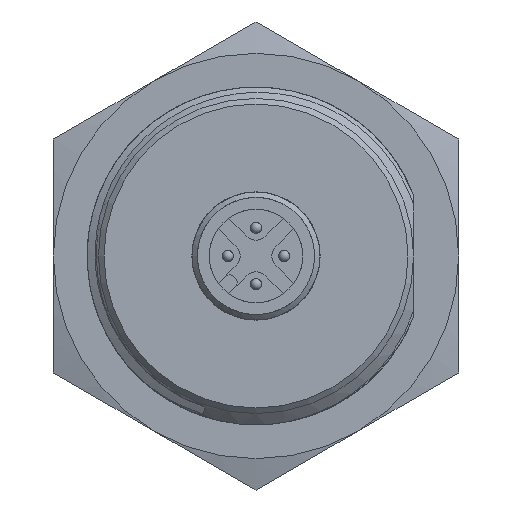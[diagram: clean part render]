
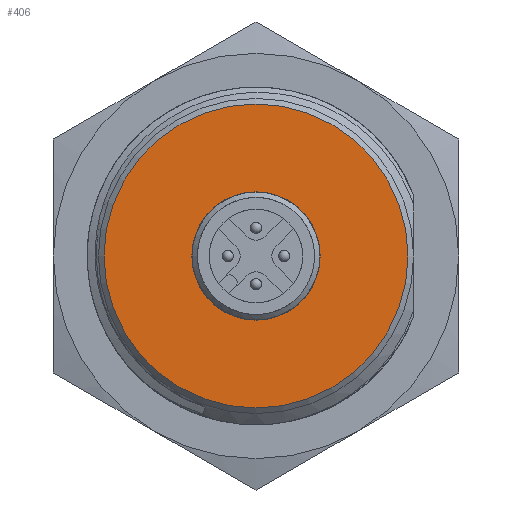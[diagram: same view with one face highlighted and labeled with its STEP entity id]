
A CAD part, front view. The second image highlights one B-rep face of the part: STEP entity #406.
In plain terms, the highlighted planar face has unit normal (0, -1, 0).
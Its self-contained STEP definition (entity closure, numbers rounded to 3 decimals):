
#113=FACE_BOUND('',#843,.T.);
#114=FACE_BOUND('',#844,.T.);
#156=PLANE('',#3399);
#231=CIRCLE('',#3395,5.7);
#233=CIRCLE('',#3398,13.5);
#406=ADVANCED_FACE('',(#113,#114),#156,.F.);
#843=EDGE_LOOP('',(#1899));
#844=EDGE_LOOP('',(#1900));
#1899=ORIENTED_EDGE('',*,*,#2880,.F.);
#1900=ORIENTED_EDGE('',*,*,#2878,.T.);
#2439=VERTEX_POINT('',#76886);
#2441=VERTEX_POINT('',#76891);
#2878=EDGE_CURVE('',#2439,#2439,#231,.T.);
#2880=EDGE_CURVE('',#2441,#2441,#233,.T.);
#3395=AXIS2_PLACEMENT_3D('',#76885,#3791,#3792);
#3398=AXIS2_PLACEMENT_3D('',#76890,#3797,#3798);
#3399=AXIS2_PLACEMENT_3D('',#76892,#3799,#3800);
#3791=DIRECTION('',(0.,1.,0.));
#3792=DIRECTION('',(-1.,0.,0.));
#3797=DIRECTION('',(0.,1.,0.));
#3798=DIRECTION('',(-1.,0.,0.));
#3799=DIRECTION('',(0.,1.,0.));
#3800=DIRECTION('',(-1.,0.,0.));
#76885=CARTESIAN_POINT('',(0.,-2.,0.));
#76886=CARTESIAN_POINT('',(-5.7,-2.,0.));
#76890=CARTESIAN_POINT('',(0.,-2.,0.));
#76891=CARTESIAN_POINT('',(-13.5,-2.,0.));
#76892=CARTESIAN_POINT('',(0.,-2.,5.7));
